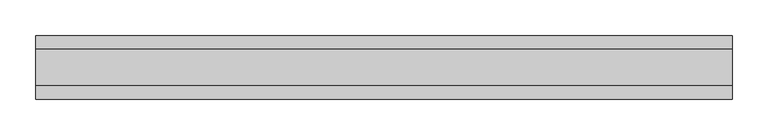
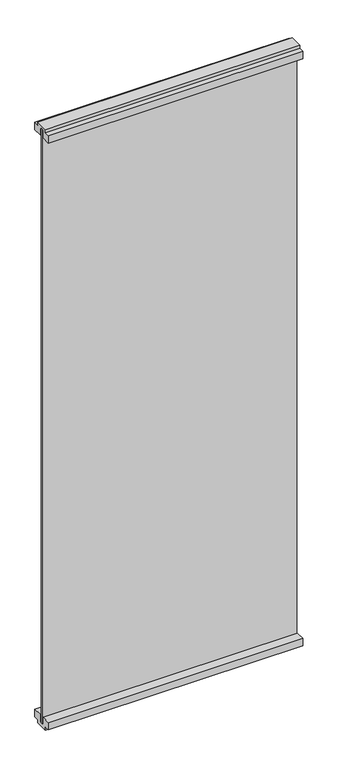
"""IFC4 building model written with IfcOpenShell, lengths in millimetres: furniture geometry, Allsteel - Aspect - Panel - 1-Way End (02-18-25) : Allsteel - Aspect - Panel - 1-Way End (02-18-25)."""

from ifc_helpers import new_model, si_unit, frame, origin, place, context, project, spatial, polyline, outline, extrude, source, transform, mapped, element, save


def furniture_cfe87c56(model_context):
    return source(origin(), model_context, "Body", "SweptSolid", [
        extrude(outline(polyline([(977.10625, -3.175), (0.0, -3.175), (0.0, 3.175), (977.10625, 3.175), (977.10625, -3.175)])), frame((0.0, 0.0, 12.7), z_axis=(0.0, 0.0, 1.0), x_axis=(1.0, 0.0, 0.0)), (0.0, 0.0, 1.0), 2413.0),
        extrude(outline(polyline([(-25.4, 2438.4), (25.4, 2438.4), (25.4, 2425.7), (44.45, 2425.7), (44.45, 2395.5375), (9.525, 2395.5375), (9.525, 2425.7), (-9.525, 2425.7), (-9.525, 2395.5375), (-44.45, 2395.5375), (-44.45, 2425.7), (-25.4, 2425.7), (-25.4, 2438.4)])), frame((0.0, 0.0, 0.0), z_axis=(1.0, 0.0, 0.0), x_axis=(0.0, 1.0, 0.0)), (0.0, 0.0, 1.0), 977.10625),
        extrude(outline(polyline([(25.4, 0.0), (-25.4, 0.0), (-25.4, 12.7), (-44.45, 12.7), (-44.45, 42.8625), (-9.525, 42.8625), (-9.525, 12.7), (9.525, 12.7), (9.525, 42.8625), (44.45, 42.8625), (44.45, 12.7), (25.4, 12.7), (25.4, 0.0)])), frame((0.0, 0.0, 0.0), z_axis=(1.0, 0.0, 0.0), x_axis=(0.0, 1.0, 0.0)), (0.0, 0.0, 1.0), 977.10625),
    ])


if __name__ == "__main__":
    model = new_model("IFC4")
    model_context = context("Model", 3, world=origin())
    ifc_project = project(units=[si_unit("LENGTHUNIT", "METRE", prefix="MILLI")], contexts=[model_context])
    site = spatial("IfcSite", under=ifc_project)
    building = spatial("IfcBuilding", under=site)
    placement = place(None, origin())
    furniture_shape = furniture_cfe87c56(model_context)
    element("IfcFurniture", 1, ObjectType="Allsteel - Aspect - Panel - 1-Way End (02-18-25) : Allsteel - Aspect - Panel - 1-Way End (02-18-25)", at=placement, inside=building, context=model_context, shape_type="MappedRepresentation", body=[
        mapped(furniture_shape, transform((0.0, 0.0, 0.0), x_axis=(1.0, 0.0, 0.0), y_axis=(0.0, 1.0, 0.0), z_axis=(0.0, 0.0, 1.0))),
    ])
    save(model, "model.ifc")
